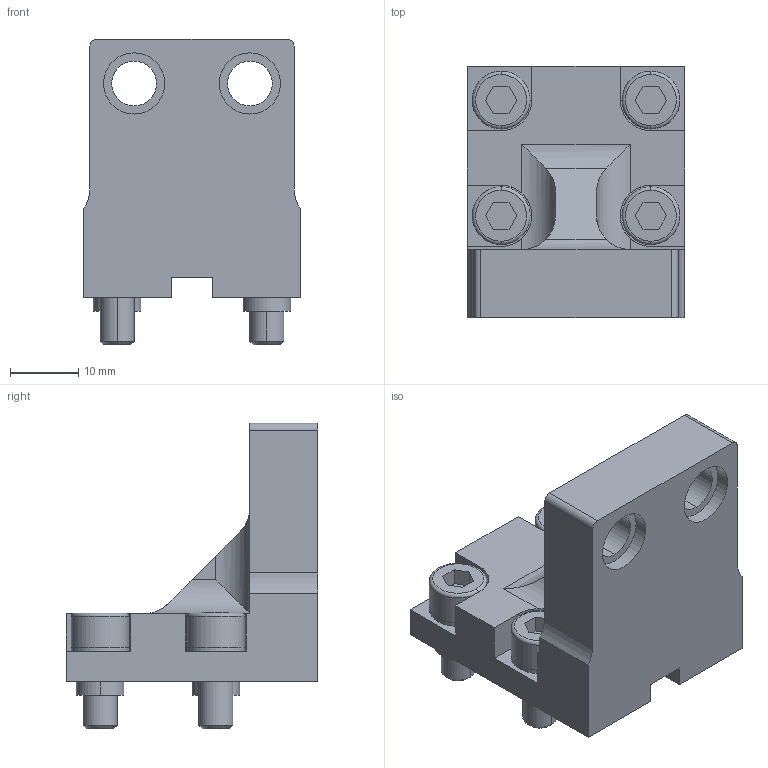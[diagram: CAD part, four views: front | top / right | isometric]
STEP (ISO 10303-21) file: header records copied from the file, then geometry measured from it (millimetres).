
FILE_DESCRIPTION (( 'STEP AP214' ), '1' );
FILE_NAME ('867.1-32-M8-Z-NC.step', '2023-08-01T13:22:24', ( '' ), ( '' ), 'SwSTEP 2.0', 'SolidWorks 2022', '' );
FILE_SCHEMA (( 'AUTOMOTIVE_DESIGN' ));
Length unit declared in the file: millimetre
Products named in the file (1): 867.1-32-M8-Z-NC
Bounding box: 32 x 37 x 44.9 mm (x, y, z)
Volume: 19400.2 mm3; surface area: 8442.3 mm2
Topology: 1 solids, 3 shells, 166 faces, 390 edges, 254 vertices
Faces by surface type: plane 83, cylinder 67, cone 8, torus 8
Entity records: 5960 total; most frequent: CARTESIAN_POINT 884, DIRECTION 858, ORIENTED_EDGE 780, EDGE_CURVE 390, AXIS2_PLACEMENT_3D 314, VERTEX_POINT 254, VECTOR 230, LINE 230
